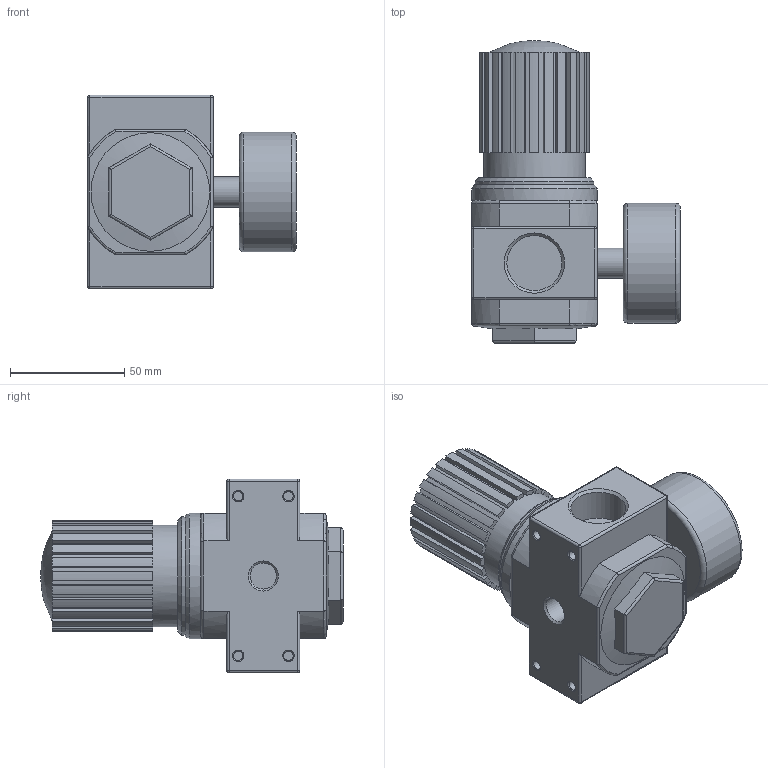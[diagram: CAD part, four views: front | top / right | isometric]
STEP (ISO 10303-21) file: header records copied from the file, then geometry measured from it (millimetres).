
FILE_DESCRIPTION(/* description */ ('STEP AP214'),/* implementation_level */ '2;1');
FILE_NAME(/* name */ '90-RC-33-xx-02.stp',/* time_stamp */ '2026-01-20T14:57:54+01:00',/* author */ ('Tschernatsch'),/* organization */ ('CADENAS'),/* preprocessor_version */ 'ST-DEVELOPER v20',/* originating_system */ 'Autodesk Inventor 2024',/* authorisation */ ' ');
FILE_SCHEMA (('AUTOMOTIVE_DESIGN { 1 0 10303 214 3 1 1 }'));
Length unit declared in the file: millimetre
Products named in the file (1): LR-G3/4-MIDI
Bounding box: 91.5 x 132.51 x 85 mm (x, y, z)
Volume: 382210.8 mm3; surface area: 48628.5 mm2
Topology: 1 solids, 2 shells, 218 faces, 552 edges, 342 vertices
Faces by surface type: plane 114, cylinder 75, torus 10, cone 10, sphere 8, bspline 1
Full cylindrical faces by diameter (mm): 4.134 x4, 11.445 x2, 13.157 x1, 24.117 x2, 44.6 x1, 52 x1, 52.5 x1, 55 x1
Entity records: 6785 total; most frequent: CARTESIAN_POINT 1438, DIRECTION 1153, ORIENTED_EDGE 1086, EDGE_CURVE 543, AXIS2_PLACEMENT_3D 422, VERTEX_POINT 342, LINE 309, VECTOR 309
